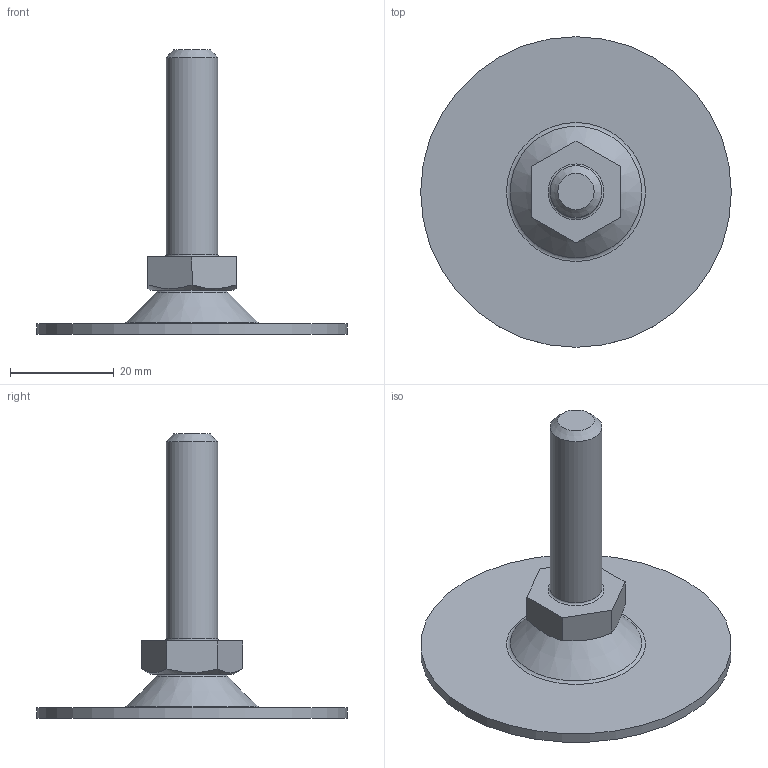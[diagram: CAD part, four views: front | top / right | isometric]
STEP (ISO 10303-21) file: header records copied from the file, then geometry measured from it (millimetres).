
FILE_DESCRIPTION(('STEP AP203'), '1');
FILE_NAME('A00050.1061016', '', ('UNSPECIFIED'), ('UNSPECIFIED'), 'C3D Converter', 'C3D Toolkit', '');
FILE_SCHEMA(('CONFIG_CONTROL_DESIGN'));
Length unit declared in the file: millimetre
Products named in the file (4): A00050.1061040; A00050.1160
Assembly tree (3 placements, depth 2):
  A00050.1061040
    A00050.1160
    (unnamed)
    (unnamed)
Bounding box: 60 x 60 x 54.93 mm (x, y, z)
Volume: 10636.5 mm3; surface area: 8843.5 mm2
Topology: 3 solids, 3 shells, 58 faces, 130 edges, 82 vertices
Faces by surface type: plane 28, torus 8, bspline 8, cone 7, cylinder 6, sphere 1
Full cylindrical faces by diameter (mm): 3.3 x1, 4 x1, 4.5 x1, 8 x1, 10 x1, 60 x1
Entity records: 2171 total; most frequent: CARTESIAN_POINT 784, DIRECTION 242, ORIENTED_EDGE 214, EDGE_CURVE 107, AXIS2_PLACEMENT_3D 95, EDGE_LOOP 86, VERTEX_POINT 81, ADVANCED_FACE 58
